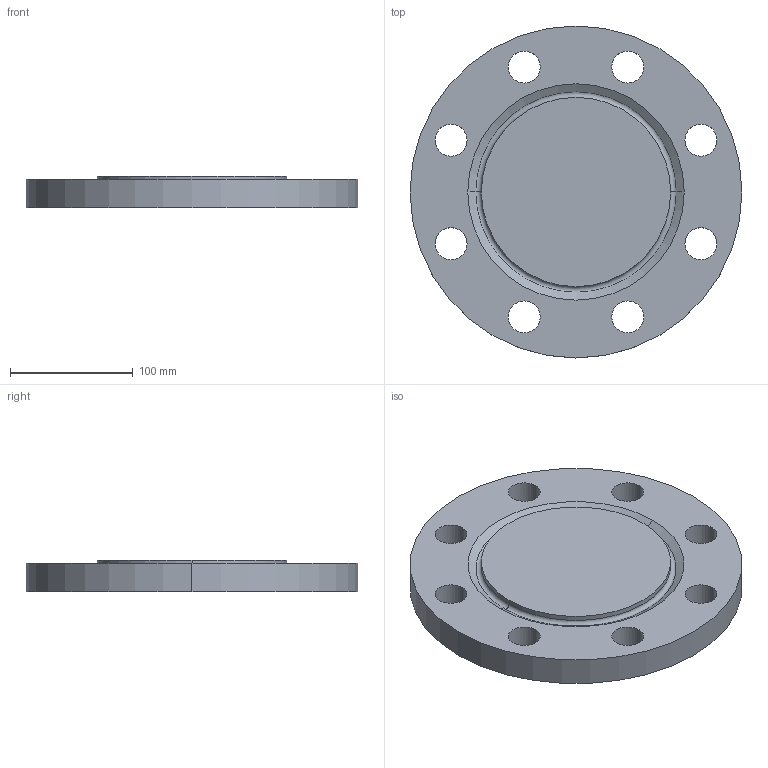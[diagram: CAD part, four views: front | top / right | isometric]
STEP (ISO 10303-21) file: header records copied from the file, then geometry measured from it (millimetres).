
FILE_DESCRIPTION (( 'STEP AP214' ), '1' );
FILE_NAME ('PN40 DN125 Type 05 - Type H Face.STEP', '2019-01-02T19:28:23', ( '' ), ( '' ), 'SwSTEP 2.0', 'SolidWorks 2019', '' );
FILE_SCHEMA (( 'AUTOMOTIVE_DESIGN' ));
Length unit declared in the file: millimetre
Products named in the file (1): PN40 DN125 Type 05 - Type H Face
Bounding box: 270 x 270 x 26 mm (x, y, z)
Volume: 1276209 mm3; surface area: 144740 mm2
Topology: 1 solids, 1 shells, 27 faces, 68 edges, 44 vertices
Faces by surface type: cylinder 20, plane 3, torus 2, cone 2
Entity records: 902 total; most frequent: DIRECTION 170, CARTESIAN_POINT 140, ORIENTED_EDGE 136, AXIS2_PLACEMENT_3D 74, EDGE_CURVE 68, CIRCLE 46, VERTEX_POINT 44, EDGE_LOOP 44
